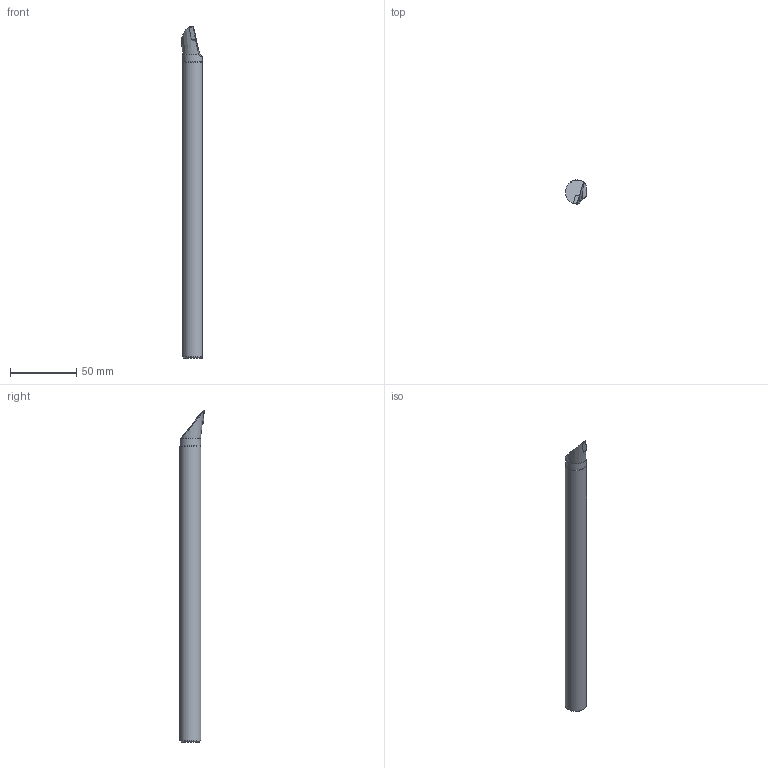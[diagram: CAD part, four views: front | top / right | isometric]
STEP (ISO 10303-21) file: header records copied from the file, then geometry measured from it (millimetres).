
FILE_DESCRIPTION(/* description */ (''),/* implementation_level */ '2;1');
FILE_NAME(/* name */ 'A16S-SVMBR-11-HAAS-.stp',/* time_stamp */ '2021-09-28T12:05:57+09:00',/* author */ (''),/* organization */ (''),/* preprocessor_version */ 'ST-DEVELOPER v11',/* originating_system */ 'SIEMENS UGS NX 6.0',/* authorisation */ '');
FILE_SCHEMA (('CONFIG_CONTROL_DESIGN'));
Length unit declared in the file: millimetre
Products named in the file (1): user19614c17
Bounding box: 15.78 x 18.46 x 249.93 mm (x, y, z)
Volume: 46264.6 mm3; surface area: 12557.6 mm2
Topology: 2 solids, 2 shells, 21 faces, 51 edges, 34 vertices
Faces by surface type: plane 11, cone 6, cylinder 3, revolution 1
Full cylindrical faces by diameter (mm): 2.8 x1
Entity records: 723 total; most frequent: CARTESIAN_POINT 146, DIRECTION 102, ORIENTED_EDGE 98, EDGE_CURVE 49, AXIS2_PLACEMENT_3D 39, VERTEX_POINT 33, EDGE_LOOP 24, LINE 23
